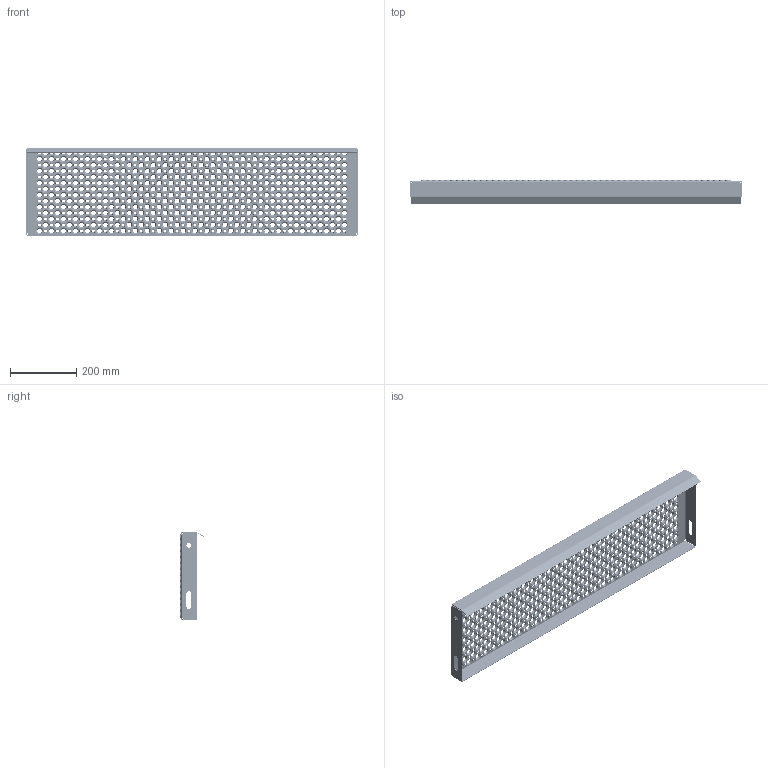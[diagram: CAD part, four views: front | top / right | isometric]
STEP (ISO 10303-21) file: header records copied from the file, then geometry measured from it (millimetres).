
FILE_DESCRIPTION (( 'STEP AP203' ), '1' );
FILE_NAME ('80242610G_Lejdertrin_265x1000x45_mm_.STEP', '2015-06-09T04:55:39', ( '' ), ( '' ), 'SwSTEP 2.0', 'SolidWorks 2013', '' );
FILE_SCHEMA (( 'CONFIG_CONTROL_DESIGN' ));
Products named in the file (1): 80242610G_Lejdertrin_265x1000x45_mm_
Bounding box: 1000 x 71.67 x 265 mm (x, y, z)
Volume: 738495.1 mm3; surface area: 797846.6 mm2
Topology: 1 solids, 1 shells, 3716 faces, 10374 edges, 6660 vertices
Faces by surface type: cone 2184, torus 1456, cylinder 36, plane 32, bspline 8
Full cylindrical faces by diameter (mm): 14 x2
Entity records: 85649 total; most frequent: DIRECTION 16358, CARTESIAN_POINT 13241, ORIENTED_EDGE 9096, EDGE_LOOP 8822, AXIS2_PLACEMENT_3D 8133, FACE_OUTER_BOUND 5174, EDGE_CURVE 4548, VERTEX_POINT 4476
